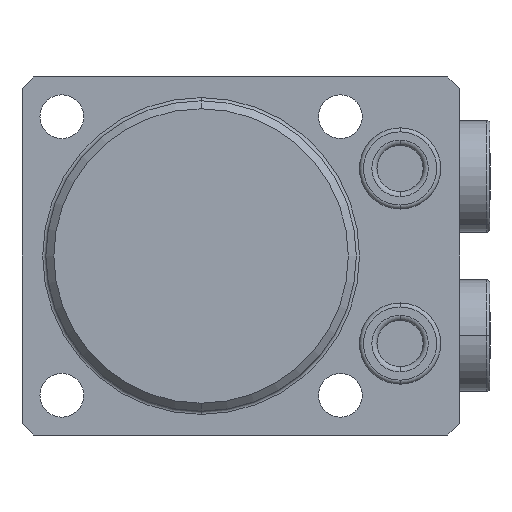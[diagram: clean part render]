
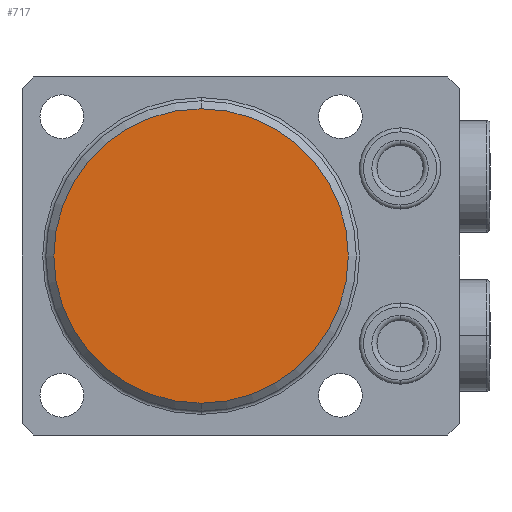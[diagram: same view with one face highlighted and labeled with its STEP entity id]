
A CAD part, front view. The second image highlights one B-rep face of the part: STEP entity #717.
In plain terms, the highlighted planar face has unit normal (0, -1, 0) as drawn and (0, 1, 0) by its records, which use the part's own axes.
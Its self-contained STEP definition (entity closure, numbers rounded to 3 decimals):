
#261=PLANE('',#5118);
#717=ADVANCED_FACE('',(#986),#261,.T.);
#986=FACE_OUTER_BOUND('',#1280,.F.);
#1280=EDGE_LOOP('',(#3012,#3013));
#3012=ORIENTED_EDGE('',*,*,#4273,.T.);
#3013=ORIENTED_EDGE('',*,*,#4161,.T.);
#3583=VERTEX_POINT('',#7835);
#3584=VERTEX_POINT('',#7836);
#4161=EDGE_CURVE('',#3583,#3584,#4572,.T.);
#4273=EDGE_CURVE('',#3584,#3583,#4600,.T.);
#4572=CIRCLE('',#5069,18.5);
#4600=CIRCLE('',#5117,18.5);
#5069=AXIS2_PLACEMENT_3D('',#7834,#6316,#6317);
#5117=AXIS2_PLACEMENT_3D('',#8137,#6470,#6471);
#5118=AXIS2_PLACEMENT_3D('',#8138,#6472,#6473);
#6316=DIRECTION('',(0.,-1.,0.));
#6317=DIRECTION('',(0.,0.,1.));
#6470=DIRECTION('',(0.,-1.,0.));
#6471=DIRECTION('',(0.,0.,1.));
#6472=DIRECTION('',(0.,1.,0.));
#6473=DIRECTION('',(0.,0.,1.));
#7834=CARTESIAN_POINT('',(0.,-33.5,0.));
#7835=CARTESIAN_POINT('',(0.,-33.5,-18.5));
#7836=CARTESIAN_POINT('',(0.,-33.5,18.5));
#8137=CARTESIAN_POINT('',(0.,-33.5,0.));
#8138=CARTESIAN_POINT('',(0.,-33.5,0.));
